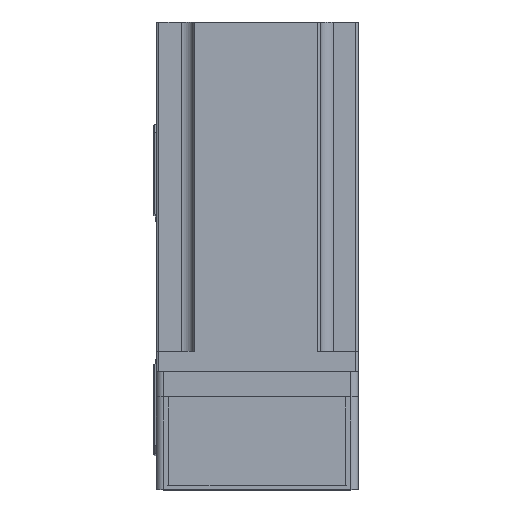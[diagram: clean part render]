
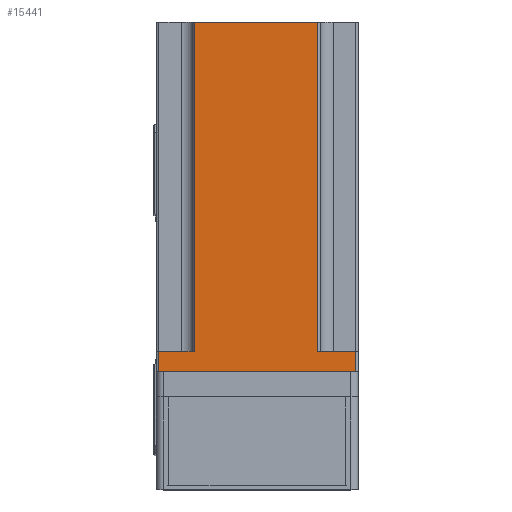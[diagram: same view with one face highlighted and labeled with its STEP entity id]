
A CAD part, top view. The second image highlights one B-rep face of the part: STEP entity #15441.
In plain terms, the highlighted planar face has unit normal (0, 0, 1) as drawn and (-1, 0, 0) by its records, which use the part's own axes.
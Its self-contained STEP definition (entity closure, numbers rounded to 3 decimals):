
#141 = VERTEX_POINT ( 'NONE', #30017 ) ;
#500 = ORIENTED_EDGE ( 'NONE', *, *, #21971, .T. ) ;
#1900 = CARTESIAN_POINT ( 'NONE',  ( -40., -39., 0. ) ) ;
#3253 = CARTESIAN_POINT ( 'NONE',  ( -40., -39., 138.3 ) ) ;
#3724 = VECTOR ( 'NONE', #21277, 1000. ) ;
#3846 = CARTESIAN_POINT ( 'NONE',  ( -40., 25., 138.3 ) ) ;
#3928 = CARTESIAN_POINT ( 'NONE',  ( -40., 40., 8. ) ) ;
#3972 = VECTOR ( 'NONE', #13692, 1000. ) ;
#4762 = VECTOR ( 'NONE', #18567, 1000. ) ;
#4834 = LINE ( 'NONE', #19371, #40536 ) ;
#5381 = VERTEX_POINT ( 'NONE', #17997 ) ;
#5631 = DIRECTION ( 'NONE',  ( 0., -1., 0. ) ) ;
#7423 = DIRECTION ( 'NONE',  ( 1., 0., 0. ) ) ;
#9500 = EDGE_CURVE ( 'NONE', #11463, #35863, #12326, .T. ) ;
#9921 = CARTESIAN_POINT ( 'NONE',  ( -40., 25., 8. ) ) ;
#10159 = LINE ( 'NONE', #18805, #12308 ) ;
#10908 = DIRECTION ( 'NONE',  ( 0., 1., 0. ) ) ;
#11104 = CARTESIAN_POINT ( 'NONE',  ( -40., -24., 8. ) ) ;
#11463 = VERTEX_POINT ( 'NONE', #3846 ) ;
#12308 = VECTOR ( 'NONE', #39514, 1000. ) ;
#12326 = LINE ( 'NONE', #16738, #30695 ) ;
#13200 = LINE ( 'NONE', #3253, #3972 ) ;
#13668 = EDGE_CURVE ( 'NONE', #141, #11463, #42096, .T. ) ;
#13692 = DIRECTION ( 'NONE',  ( 0., 0., 1. ) ) ;
#13950 = EDGE_CURVE ( 'NONE', #5381, #20882, #42608, .T. ) ;
#15441 = ADVANCED_FACE ( 'NONE', ( #35307 ), #41706, .F. ) ;
#16738 = CARTESIAN_POINT ( 'NONE',  ( -40., -40., 138.3 ) ) ;
#17456 = EDGE_CURVE ( 'NONE', #19939, #24238, #40520, .T. ) ;
#17748 = EDGE_LOOP ( 'NONE', ( #31583, #27833, #44361, #38103, #23335, #21225, #500, #27628 ) ) ;
#17997 = CARTESIAN_POINT ( 'NONE',  ( -40., 39., 8. ) ) ;
#18567 = DIRECTION ( 'NONE',  ( 0., 0., -1. ) ) ;
#18805 = CARTESIAN_POINT ( 'NONE',  ( -40., -24., 138.3 ) ) ;
#19371 = CARTESIAN_POINT ( 'NONE',  ( -40., -40., 0. ) ) ;
#19939 = VERTEX_POINT ( 'NONE', #11104 ) ;
#20522 = VECTOR ( 'NONE', #10908, 1000. ) ;
#20882 = VERTEX_POINT ( 'NONE', #24911 ) ;
#21225 = ORIENTED_EDGE ( 'NONE', *, *, #13950, .T. ) ;
#21277 = DIRECTION ( 'NONE',  ( 0., -1., 0. ) ) ;
#21971 = EDGE_CURVE ( 'NONE', #20882, #31461, #4834, .T. ) ;
#22276 = EDGE_CURVE ( 'NONE', #141, #5381, #30801, .T. ) ;
#23335 = ORIENTED_EDGE ( 'NONE', *, *, #22276, .T. ) ;
#23684 = VECTOR ( 'NONE', #34060, 1000. ) ;
#24238 = VERTEX_POINT ( 'NONE', #30791 ) ;
#24911 = CARTESIAN_POINT ( 'NONE',  ( -40., 39., 0. ) ) ;
#27628 = ORIENTED_EDGE ( 'NONE', *, *, #37939, .T. ) ;
#27833 = ORIENTED_EDGE ( 'NONE', *, *, #29835, .T. ) ;
#28052 = CARTESIAN_POINT ( 'NONE',  ( -40., -40., 138.3 ) ) ;
#29835 = EDGE_CURVE ( 'NONE', #19939, #35863, #10159, .T. ) ;
#30017 = CARTESIAN_POINT ( 'NONE',  ( -40., 25., 8. ) ) ;
#30695 = VECTOR ( 'NONE', #33919, 1000. ) ;
#30791 = CARTESIAN_POINT ( 'NONE',  ( -40., -39., 8. ) ) ;
#30801 = LINE ( 'NONE', #3928, #20522 ) ;
#31461 = VERTEX_POINT ( 'NONE', #1900 ) ;
#31545 = DIRECTION ( 'NONE',  ( 0., 0., -1. ) ) ;
#31583 = ORIENTED_EDGE ( 'NONE', *, *, #17456, .F. ) ;
#33919 = DIRECTION ( 'NONE',  ( 0., -1., 0. ) ) ;
#34060 = DIRECTION ( 'NONE',  ( 0., 0., 1. ) ) ;
#35307 = FACE_OUTER_BOUND ( 'NONE', #17748, .T. ) ;
#35863 = VERTEX_POINT ( 'NONE', #41988 ) ;
#37939 = EDGE_CURVE ( 'NONE', #31461, #24238, #13200, .T. ) ;
#38103 = ORIENTED_EDGE ( 'NONE', *, *, #13668, .F. ) ;
#38988 = AXIS2_PLACEMENT_3D ( 'NONE', #28052, #7423, #31545 ) ;
#39305 = CARTESIAN_POINT ( 'NONE',  ( -40., 39., 138.3 ) ) ;
#39514 = DIRECTION ( 'NONE',  ( 0., 0., 1. ) ) ;
#40520 = LINE ( 'NONE', #42026, #3724 ) ;
#40536 = VECTOR ( 'NONE', #5631, 1000. ) ;
#41706 = PLANE ( 'NONE',  #38988 ) ;
#41988 = CARTESIAN_POINT ( 'NONE',  ( -40., -24., 138.3 ) ) ;
#42026 = CARTESIAN_POINT ( 'NONE',  ( -40., -40., 8. ) ) ;
#42096 = LINE ( 'NONE', #9921, #23684 ) ;
#42608 = LINE ( 'NONE', #39305, #4762 ) ;
#44361 = ORIENTED_EDGE ( 'NONE', *, *, #9500, .F. ) ;
